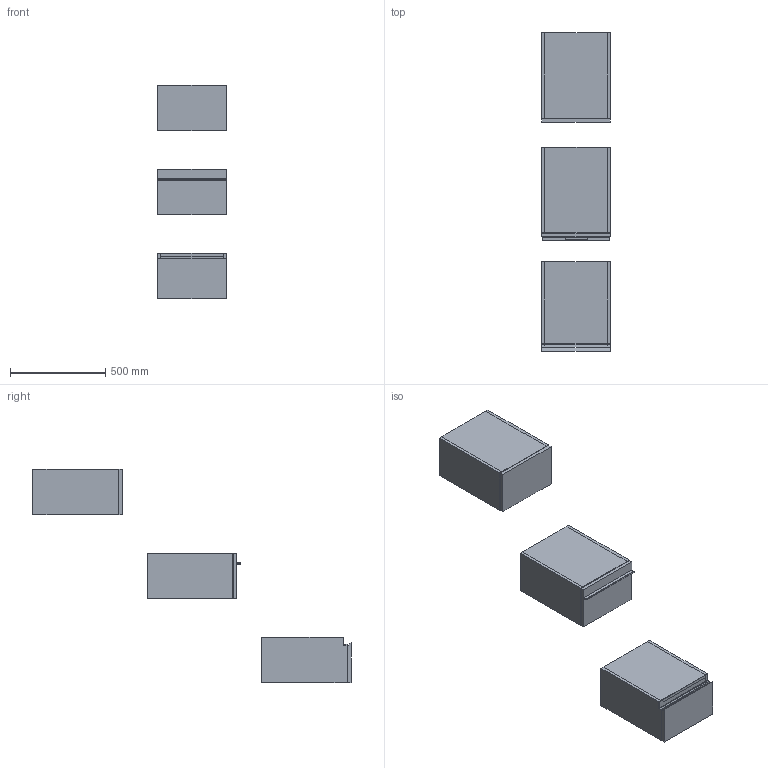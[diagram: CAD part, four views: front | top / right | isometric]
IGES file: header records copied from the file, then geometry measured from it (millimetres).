
Start section: Data from Parasolid IGES Translator 19.0.9, Copyright(c) 2006 Siemens PL M Software. All Rights Reserved.
Global section: file name: noorth-SI-H 24 D 47 W 36_8289.igs; native system: By Siemens PLM Incorporated; preprocessor: XPlus GENERIC/IGES 19.0.9; author: Noname; organization: Noname; date: 20200530.113517; units: metre
Bounding box: 360.01 x 1669.1 x 1120 mm (x, y, z)
Volume: 29628591.3 mm3; surface area: 4360355.4 mm2
Topology: 20 solids, 20 shells, 178 faces, 382 edges, 234 vertices
Faces by surface type: plane 134, extrusion 16, bspline 16, cylinder 12
